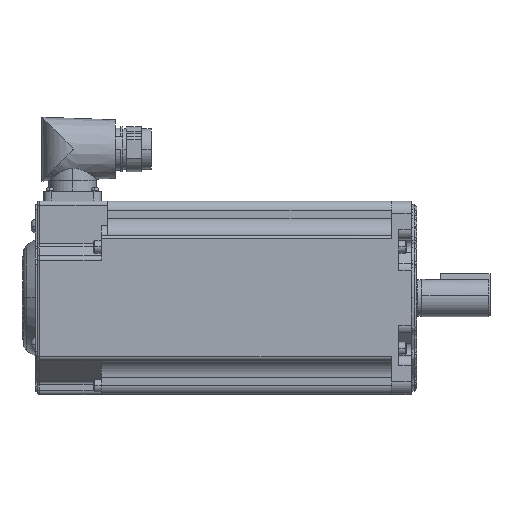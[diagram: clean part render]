
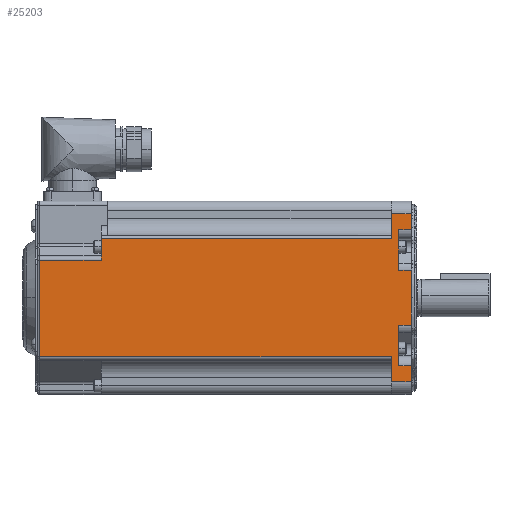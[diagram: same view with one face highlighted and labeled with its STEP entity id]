
A CAD part, top view. The second image highlights one B-rep face of the part: STEP entity #25203.
In plain terms, the highlighted planar face has unit normal (0, 0, 1) as drawn and (0, 0, -1) by its records, which use the part's own axes.
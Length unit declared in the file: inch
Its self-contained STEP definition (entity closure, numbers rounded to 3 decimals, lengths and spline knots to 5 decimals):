
#96 = CARTESIAN_POINT ( 'NONE',  ( -6.08, -1.1825, -1.935 ) ) ;
#117 = VECTOR ( 'NONE', #25470, 39.37008 ) ;
#184 = CARTESIAN_POINT ( 'NONE',  ( 0., -1.935, -1.935 ) ) ;
#190 = ORIENTED_EDGE ( 'NONE', *, *, #9607, .T. ) ;
#590 = DIRECTION ( 'NONE',  ( 0., 0., 1. ) ) ;
#640 = VERTEX_POINT ( 'NONE', #1743 ) ;
#737 = CARTESIAN_POINT ( 'NONE',  ( -7.44, 1.1825, -1.935 ) ) ;
#880 = VECTOR ( 'NONE', #31257, 39.37008 ) ;
#1743 = CARTESIAN_POINT ( 'NONE',  ( -0.4, 1.1825, -1.935 ) ) ;
#1754 = VERTEX_POINT ( 'NONE', #14973 ) ;
#1763 = EDGE_CURVE ( 'NONE', #5001, #1754, #12861, .T. ) ;
#2300 = CARTESIAN_POINT ( 'NONE',  ( -7.44, 1.1825, -1.935 ) ) ;
#2385 = VERTEX_POINT ( 'NONE', #29438 ) ;
#2731 = ORIENTED_EDGE ( 'NONE', *, *, #1763, .F. ) ;
#2810 = DIRECTION ( 'NONE',  ( 1., 0., 0. ) ) ;
#3187 = CARTESIAN_POINT ( 'NONE',  ( -6.205, -1.1825, -1.935 ) ) ;
#3217 = VERTEX_POINT ( 'NONE', #17987 ) ;
#3477 = LINE ( 'NONE', #29982, #22411 ) ;
#3704 = EDGE_CURVE ( 'NONE', #30228, #640, #32597, .T. ) ;
#3976 = VECTOR ( 'NONE', #27623, 39.37008 ) ;
#4142 = VECTOR ( 'NONE', #32692, 39.37008 ) ;
#4146 = LINE ( 'NONE', #22526, #17802 ) ;
#4151 = EDGE_CURVE ( 'NONE', #14854, #14284, #5031, .T. ) ;
#4318 = CARTESIAN_POINT ( 'NONE',  ( -6.08, -0.755, -1.935 ) ) ;
#4512 = EDGE_CURVE ( 'NONE', #14854, #11197, #3477, .T. ) ;
#4985 = CARTESIAN_POINT ( 'NONE',  ( -0.4, -1.935, -1.935 ) ) ;
#5001 = VERTEX_POINT ( 'NONE', #21656 ) ;
#5031 = LINE ( 'NONE', #10450, #24809 ) ;
#5088 = DIRECTION ( 'NONE',  ( 0., 1., 0. ) ) ;
#5361 = LINE ( 'NONE', #2300, #25124 ) ;
#5591 = LINE ( 'NONE', #12136, #3976 ) ;
#6017 = VECTOR ( 'NONE', #17688, 39.37008 ) ;
#6638 = ORIENTED_EDGE ( 'NONE', *, *, #30071, .F. ) ;
#6789 = VERTEX_POINT ( 'NONE', #17873 ) ;
#7559 = DIRECTION ( 'NONE',  ( 0., 1., 0. ) ) ;
#8309 = EDGE_CURVE ( 'NONE', #9925, #6789, #17469, .T. ) ;
#8480 = LINE ( 'NONE', #184, #29173 ) ;
#8956 = ORIENTED_EDGE ( 'NONE', *, *, #13816, .T. ) ;
#9291 = LINE ( 'NONE', #28625, #880 ) ;
#9607 = EDGE_CURVE ( 'NONE', #2385, #12501, #18994, .T. ) ;
#9925 = VERTEX_POINT ( 'NONE', #33125 ) ;
#10229 = VECTOR ( 'NONE', #7559, 39.37008 ) ;
#10407 = DIRECTION ( 'NONE',  ( 0., 1., 0. ) ) ;
#10450 = CARTESIAN_POINT ( 'NONE',  ( 0., -1.935, -1.935 ) ) ;
#10678 = AXIS2_PLACEMENT_3D ( 'NONE', #21282, #590, #15982 ) ;
#10982 = CARTESIAN_POINT ( 'NONE',  ( -0.25, -0.54835, -1.935 ) ) ;
#11134 = ORIENTED_EDGE ( 'NONE', *, *, #3704, .T. ) ;
#11197 = VERTEX_POINT ( 'NONE', #10982 ) ;
#11240 = EDGE_CURVE ( 'NONE', #31579, #1754, #21877, .T. ) ;
#11335 = EDGE_CURVE ( 'NONE', #14276, #13990, #4146, .T. ) ;
#11924 = VECTOR ( 'NONE', #16801, 39.37008 ) ;
#11932 = DIRECTION ( 'NONE',  ( 1., 0., 0. ) ) ;
#12136 = CARTESIAN_POINT ( 'NONE',  ( -0.4, -1.935, -1.935 ) ) ;
#12501 = VERTEX_POINT ( 'NONE', #3187 ) ;
#12509 = CARTESIAN_POINT ( 'NONE',  ( -6.08, 0.54835, -1.935 ) ) ;
#12861 = LINE ( 'NONE', #15383, #6017 ) ;
#13293 = LINE ( 'NONE', #12509, #26229 ) ;
#13354 = EDGE_LOOP ( 'NONE', ( #2731, #23191, #26004, #190, #15257, #32017, #16573, #11134, #15493, #22449, #6638, #32599, #31032, #8956, #24455, #25638, #30456, #17386 ) ) ;
#13513 = PLANE ( 'NONE',  #10678 ) ;
#13816 = EDGE_CURVE ( 'NONE', #3217, #14284, #13293, .T. ) ;
#13940 = DIRECTION ( 'NONE',  ( -1., 0., 0. ) ) ;
#13990 = VERTEX_POINT ( 'NONE', #23699 ) ;
#14198 = CARTESIAN_POINT ( 'NONE',  ( -0.25, -1.36314, -1.935 ) ) ;
#14276 = VERTEX_POINT ( 'NONE', #28075 ) ;
#14284 = VERTEX_POINT ( 'NONE', #17723 ) ;
#14322 = CARTESIAN_POINT ( 'NONE',  ( -6.205, -0.755, -1.935 ) ) ;
#14854 = VERTEX_POINT ( 'NONE', #32676 ) ;
#14893 = LINE ( 'NONE', #29474, #20136 ) ;
#14973 = CARTESIAN_POINT ( 'NONE',  ( 0., -1.36314, -1.935 ) ) ;
#15257 = ORIENTED_EDGE ( 'NONE', *, *, #30092, .F. ) ;
#15383 = CARTESIAN_POINT ( 'NONE',  ( 0., -1.935, -1.935 ) ) ;
#15493 = ORIENTED_EDGE ( 'NONE', *, *, #29301, .T. ) ;
#15922 = DIRECTION ( 'NONE',  ( 0., 1., 0. ) ) ;
#15982 = DIRECTION ( 'NONE',  ( 0., -1., 0. ) ) ;
#16304 = VERTEX_POINT ( 'NONE', #14322 ) ;
#16573 = ORIENTED_EDGE ( 'NONE', *, *, #22731, .T. ) ;
#16801 = DIRECTION ( 'NONE',  ( 1., 0., 0. ) ) ;
#17386 = ORIENTED_EDGE ( 'NONE', *, *, #11240, .T. ) ;
#17469 = LINE ( 'NONE', #17605, #29684 ) ;
#17605 = CARTESIAN_POINT ( 'NONE',  ( -6.08, 1.36314, -1.935 ) ) ;
#17688 = DIRECTION ( 'NONE',  ( 0., 1., 0. ) ) ;
#17723 = CARTESIAN_POINT ( 'NONE',  ( 0., 0.54835, -1.935 ) ) ;
#17793 = LINE ( 'NONE', #4318, #4142 ) ;
#17802 = VECTOR ( 'NONE', #2810, 39.37008 ) ;
#17873 = CARTESIAN_POINT ( 'NONE',  ( -0.25, 1.36314, -1.935 ) ) ;
#17987 = CARTESIAN_POINT ( 'NONE',  ( -0.25, 0.54835, -1.935 ) ) ;
#18994 = LINE ( 'NONE', #96, #117 ) ;
#19857 = LINE ( 'NONE', #28975, #31287 ) ;
#20136 = VECTOR ( 'NONE', #13940, 39.37008 ) ;
#20294 = DIRECTION ( 'NONE',  ( 0., 1., 0. ) ) ;
#20753 = DIRECTION ( 'NONE',  ( 0., 1., 0. ) ) ;
#20946 = CARTESIAN_POINT ( 'NONE',  ( -7.44, -0.755, -1.935 ) ) ;
#21035 = EDGE_CURVE ( 'NONE', #28596, #2385, #22366, .T. ) ;
#21070 = VECTOR ( 'NONE', #11932, 39.37008 ) ;
#21282 = CARTESIAN_POINT ( 'NONE',  ( -6.08, 1.245, -1.935 ) ) ;
#21656 = CARTESIAN_POINT ( 'NONE',  ( 0., -1.685, -1.935 ) ) ;
#21877 = LINE ( 'NONE', #22299, #21070 ) ;
#22299 = CARTESIAN_POINT ( 'NONE',  ( -6.08, -1.36314, -1.935 ) ) ;
#22366 = LINE ( 'NONE', #4985, #10229 ) ;
#22411 = VECTOR ( 'NONE', #29869, 39.37008 ) ;
#22449 = ORIENTED_EDGE ( 'NONE', *, *, #11335, .T. ) ;
#22526 = CARTESIAN_POINT ( 'NONE',  ( -6.08, 1.685, -1.935 ) ) ;
#22593 = VECTOR ( 'NONE', #5088, 39.37008 ) ;
#22731 = EDGE_CURVE ( 'NONE', #28980, #30228, #5361, .T. ) ;
#23191 = ORIENTED_EDGE ( 'NONE', *, *, #30833, .T. ) ;
#23699 = CARTESIAN_POINT ( 'NONE',  ( 0., 1.685, -1.935 ) ) ;
#23916 = CARTESIAN_POINT ( 'NONE',  ( -0.4, -1.685, -1.935 ) ) ;
#24455 = ORIENTED_EDGE ( 'NONE', *, *, #4151, .F. ) ;
#24809 = VECTOR ( 'NONE', #10407, 39.37008 ) ;
#25124 = VECTOR ( 'NONE', #20294, 39.37008 ) ;
#25203 = ADVANCED_FACE ( 'NONE', ( #30160 ), #13513, .F. ) ;
#25470 = DIRECTION ( 'NONE',  ( -1., 0., 0. ) ) ;
#25638 = ORIENTED_EDGE ( 'NONE', *, *, #4512, .T. ) ;
#26004 = ORIENTED_EDGE ( 'NONE', *, *, #21035, .T. ) ;
#26229 = VECTOR ( 'NONE', #30646, 39.37008 ) ;
#26979 = EDGE_CURVE ( 'NONE', #3217, #6789, #19857, .T. ) ;
#27274 = EDGE_CURVE ( 'NONE', #16304, #28980, #17793, .T. ) ;
#27623 = DIRECTION ( 'NONE',  ( 0., 1., 0. ) ) ;
#28075 = CARTESIAN_POINT ( 'NONE',  ( -0.4, 1.685, -1.935 ) ) ;
#28267 = CARTESIAN_POINT ( 'NONE',  ( -0.25, -0.6312, -1.935 ) ) ;
#28385 = EDGE_CURVE ( 'NONE', #31579, #11197, #29531, .T. ) ;
#28596 = VERTEX_POINT ( 'NONE', #23916 ) ;
#28625 = CARTESIAN_POINT ( 'NONE',  ( -6.205, -1.935, -1.935 ) ) ;
#28975 = CARTESIAN_POINT ( 'NONE',  ( -0.25, 0.6312, -1.935 ) ) ;
#28980 = VERTEX_POINT ( 'NONE', #20946 ) ;
#29173 = VECTOR ( 'NONE', #20753, 39.37008 ) ;
#29301 = EDGE_CURVE ( 'NONE', #640, #14276, #5591, .T. ) ;
#29438 = CARTESIAN_POINT ( 'NONE',  ( -0.4, -1.1825, -1.935 ) ) ;
#29474 = CARTESIAN_POINT ( 'NONE',  ( -6.08, -1.685, -1.935 ) ) ;
#29531 = LINE ( 'NONE', #28267, #22593 ) ;
#29684 = VECTOR ( 'NONE', #33135, 39.37008 ) ;
#29860 = CARTESIAN_POINT ( 'NONE',  ( -6.08, 1.1825, -1.935 ) ) ;
#29869 = DIRECTION ( 'NONE',  ( -1., 0., 0. ) ) ;
#29982 = CARTESIAN_POINT ( 'NONE',  ( -6.08, -0.54835, -1.935 ) ) ;
#30071 = EDGE_CURVE ( 'NONE', #9925, #13990, #8480, .T. ) ;
#30092 = EDGE_CURVE ( 'NONE', #16304, #12501, #9291, .T. ) ;
#30160 = FACE_OUTER_BOUND ( 'NONE', #13354, .T. ) ;
#30228 = VERTEX_POINT ( 'NONE', #737 ) ;
#30456 = ORIENTED_EDGE ( 'NONE', *, *, #28385, .F. ) ;
#30646 = DIRECTION ( 'NONE',  ( 1., 0., 0. ) ) ;
#30833 = EDGE_CURVE ( 'NONE', #5001, #28596, #14893, .T. ) ;
#31032 = ORIENTED_EDGE ( 'NONE', *, *, #26979, .F. ) ;
#31257 = DIRECTION ( 'NONE',  ( 0., -1., 0. ) ) ;
#31287 = VECTOR ( 'NONE', #15922, 39.37008 ) ;
#31579 = VERTEX_POINT ( 'NONE', #14198 ) ;
#32017 = ORIENTED_EDGE ( 'NONE', *, *, #27274, .T. ) ;
#32597 = LINE ( 'NONE', #29860, #11924 ) ;
#32599 = ORIENTED_EDGE ( 'NONE', *, *, #8309, .T. ) ;
#32676 = CARTESIAN_POINT ( 'NONE',  ( 0., -0.54835, -1.935 ) ) ;
#32692 = DIRECTION ( 'NONE',  ( -1., 0., 0. ) ) ;
#33125 = CARTESIAN_POINT ( 'NONE',  ( 0., 1.36314, -1.935 ) ) ;
#33135 = DIRECTION ( 'NONE',  ( -1., 0., 0. ) ) ;
